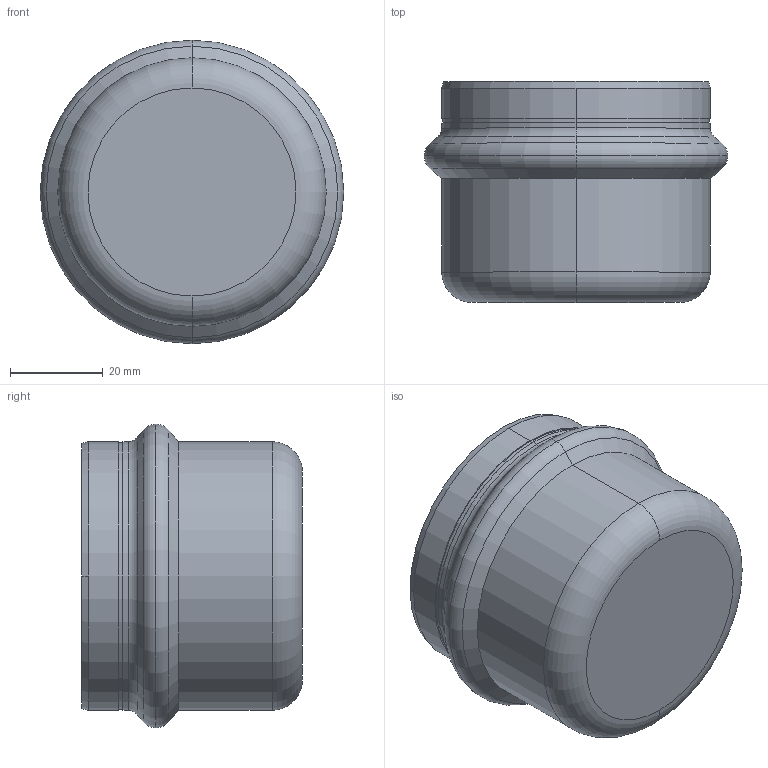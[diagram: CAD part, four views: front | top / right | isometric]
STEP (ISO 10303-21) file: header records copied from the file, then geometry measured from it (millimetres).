
FILE_DESCRIPTION(('CoCreate Modeling STEP Export'),'2;1');
FILE_NAME('8301VW54.stp','2013-03-05T13:31:03',(''),(''),'CoCreate Modeling STEP processor for AP214 (Solid Model)','CoCreate Modeling 17.00A 17-Jun-2010 (C) Parametric Technology GmbH','');
FILE_SCHEMA(('AUTOMOTIVE_DESIGN { 1 0 10303 214 1 1 1 1 }'));
Length unit declared in the file: millimetre
Products named in the file (1): 8301VW54
Bounding box: 65.3 x 47.5 x 65.3 mm (x, y, z)
Volume: 23281.6 mm3; surface area: 21984 mm2
Topology: 1 solids, 1 shells, 46 faces, 104 edges, 66 vertices
Faces by surface type: cylinder 16, cone 12, torus 10, plane 8
Entity records: 1046 total; most frequent: ORIENTED_EDGE 208, CARTESIAN_POINT 157, DIRECTION 154, EDGE_CURVE 104, VERTEX_POINT 66, AXIS2_PLACEMENT_3D 63, EDGE_LOOP 52, FACE_OUTER_BOUND 46
